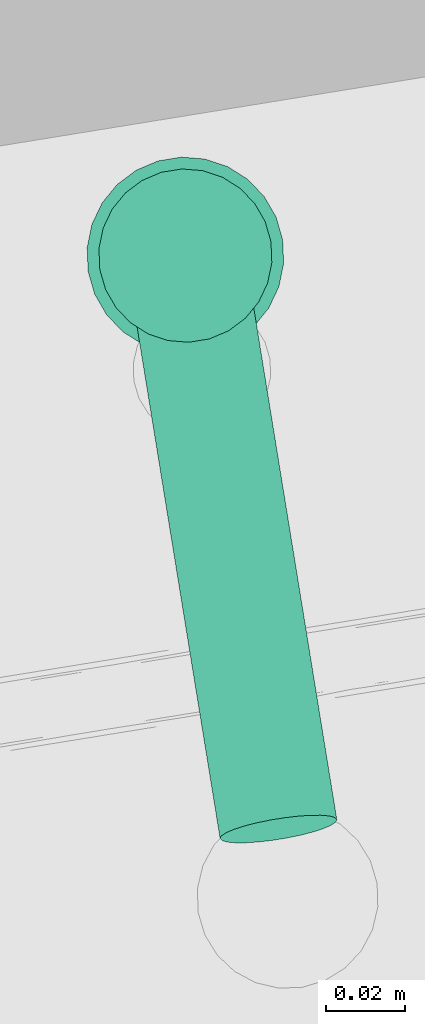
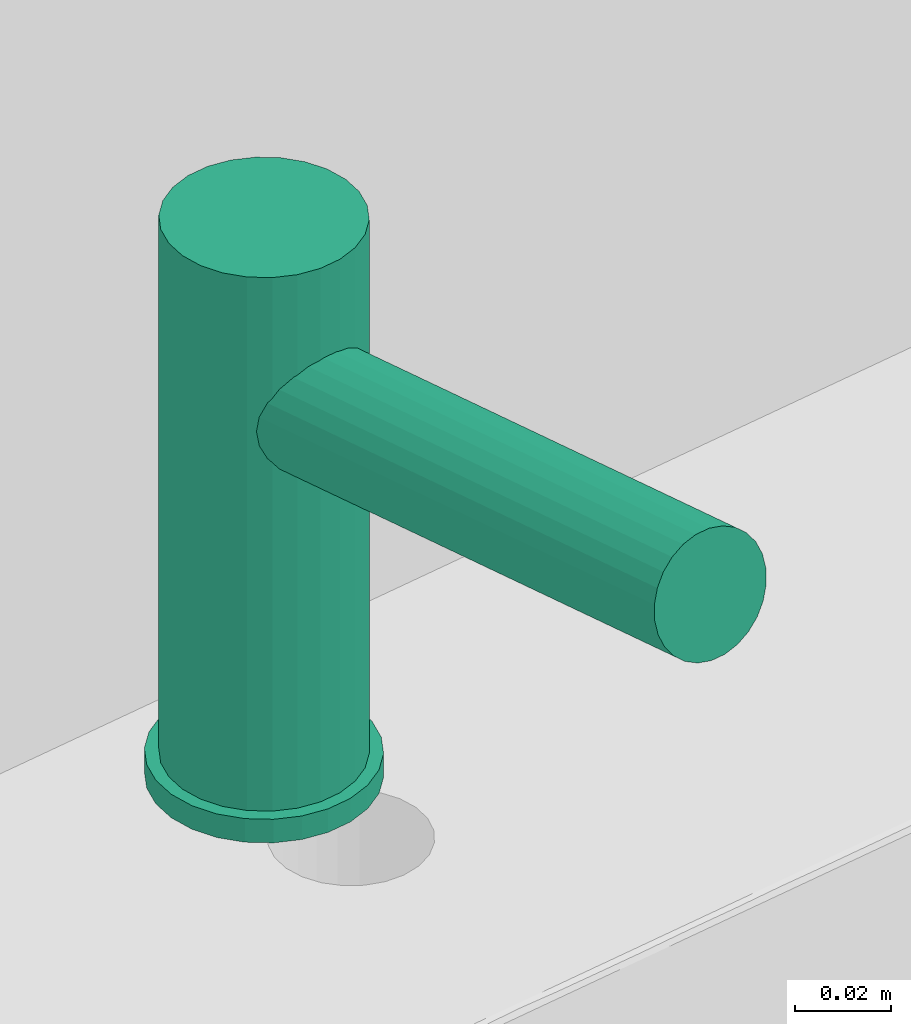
# One storey, part 33 of 38: 1 flow terminal.
"""IFC2X3 building model written with IfcOpenShell, lengths in millimetres."""

from ifc_helpers import new_model, entity, si_unit, converted_unit, derived_unit, direction, frame, frame_2d, origin, origin_with_axes, place, context, subcontext, project, spatial, circle, extrude, source, transform, mapped, material, type_object, element, save


model = new_model("IFC2X3")

# Units and contexts
model_context = context("Model", 3, precision=0.01, world=origin(), true_north=direction((6.12323399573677e-17, 1.0)))
plan_context = context("Plan", 3, precision=1e-05, world=origin_with_axes())
body_context = subcontext(model_context, "Body", "Model", "MODEL_VIEW")
ifc_project = project(units=[converted_unit("PLANEANGLEUNIT", "DEGREE", entity("IfcPositiveLengthMeasure", 0.0174532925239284), si_unit("PLANEANGLEUNIT", "RADIAN"), dimensions=[0, 0, 0, 0, 0, 0, 0]), si_unit("AREAUNIT", "SQUARE_METRE"), si_unit("LENGTHUNIT", "METRE", prefix="MILLI"), si_unit("MASSUNIT", "GRAM", prefix="KILO"), si_unit("POWERUNIT", "WATT"), si_unit("PRESSUREUNIT", "PASCAL", prefix="KILO"), si_unit("FORCEUNIT", "NEWTON", prefix="KILO"), si_unit("ELECTRICVOLTAGEUNIT", "VOLT"), si_unit("ELECTRICCURRENTUNIT", "AMPERE"), si_unit("THERMODYNAMICTEMPERATUREUNIT", "DEGREE_CELSIUS"), si_unit("TIMEUNIT", "SECOND"), si_unit("VOLUMEUNIT", "CUBIC_METRE"), derived_unit("LINEARVELOCITYUNIT", [(si_unit("LENGTHUNIT", "METRE"), 1), (si_unit("TIMEUNIT", "SECOND"), -1)]), derived_unit("VOLUMETRICFLOWRATEUNIT", [(si_unit("VOLUMEUNIT", "CUBIC_METRE"), 1), (si_unit("TIMEUNIT", "SECOND"), -1)]), derived_unit("THERMALTRANSMITTANCEUNIT", [(si_unit("POWERUNIT", "WATT"), 1), (si_unit("THERMODYNAMICTEMPERATUREUNIT", "KELVIN"), -1), (si_unit("AREAUNIT", "SQUARE_METRE"), -1)]), derived_unit("SOUNDPRESSUREUNIT", [(si_unit("PRESSUREUNIT", "PASCAL"), 1)])], contexts=[model_context, plan_context])

# Site, building, storey
site_placement = place(None, frame((-0.00071070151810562, 0.00438415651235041, 0.0), z_axis=(0.0, 0.0, 1.0), x_axis=(-0.160236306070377, 0.987078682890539, 0.0)))
site = spatial("IfcSite", under=ifc_project, at=site_placement, Name="Default", CompositionType="ELEMENT")
building_placement = place(site_placement, origin_with_axes())
building = spatial("IfcBuilding", under=site, at=building_placement, Name="TOO", CompositionType="ELEMENT")
storey_placement = place(building_placement, frame((0.0, 0.0, 50999.9999999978), z_axis=(0.0, 0.0, 1.0), x_axis=(1.0, 0.0, 0.0)))
storey = spatial("IfcBuildingStorey", under=building, at=storey_placement, Name="Nivå D-H01", CompositionType="ELEMENT", Elevation=50999.9999999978)

# Flow terminal
ifc_material = material(Name="<Unnamed>")
distribution_element_type = type_object("IfcDistributionElementType", Name="A315 - Armatur:sink mounted faucet", material=ifc_material)
shared_shape = source(origin(), body_context, "Body", "SweptSolid", [
    extrude(circle(Radius=15.0, at=frame_2d((0.0, -6.95890887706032e-14), x_axis=(1.0, 0.0))), frame((0.0, -147.389900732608, 125.836430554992), z_axis=(0.0, 0.984807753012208, -0.17364817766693), x_axis=(1.0, 0.0, 0.0)), (0.0, 0.0, 1.0), 143.522762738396),
    extrude(circle(Radius=22.0, at=frame_2d((0.0, -3.55419806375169e-14), x_axis=(1.0, 0.0))), frame((0.0, 0.0, 6.0)), (0.0, 0.0, 1.0), 136.0),
    extrude(circle(Radius=25.0, at=frame_2d((0.0, -4.03886143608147e-14), x_axis=(1.0, 0.0))), origin(), (0.0, 0.0, 1.0), 6.0),
])
flow_terminal_placement = place(storey_placement, frame((779697.619644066, -593832.425346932, 649.642420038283), z_axis=(0.0, 0.0, 1.0), x_axis=(0.0, -1.0, 0.0)))
element("IfcFlowTerminal", 1, at=flow_terminal_placement, inside=storey, type_object=distribution_element_type, material=ifc_material, Name="A315 - Armatur:sink mounted faucet", ObjectType="A315 - Armatur:sink mounted faucet", context=body_context, shape_type="MappedRepresentation", body=[
    mapped(shared_shape, transform((0.0, 0.0, 0.0), scale=1.0)),
])

save(model, "model.ifc")
